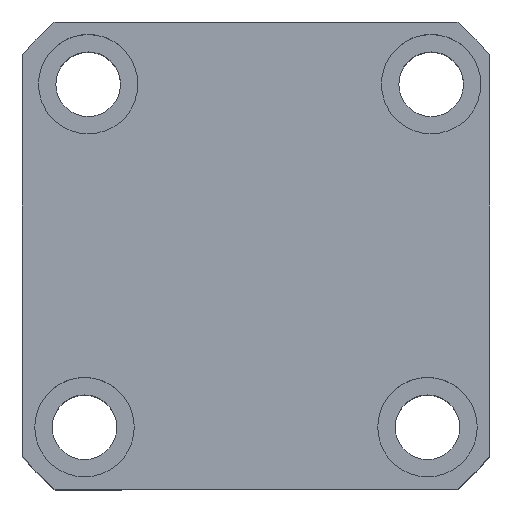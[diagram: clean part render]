
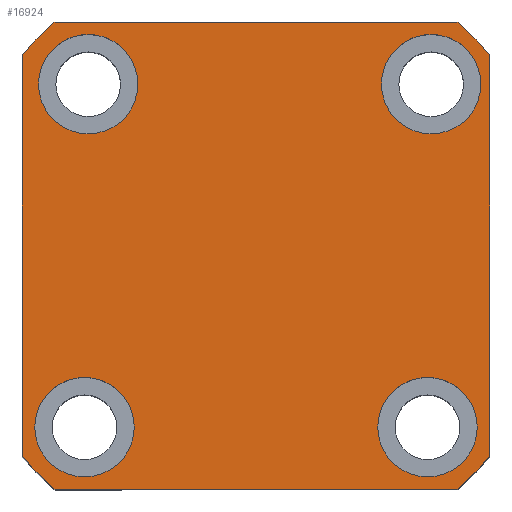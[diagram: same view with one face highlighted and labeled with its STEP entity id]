
A CAD part, top view. The second image highlights one B-rep face of the part: STEP entity #16924.
In plain terms, the highlighted planar face has unit normal (0, 0, 1) as drawn and (0, 0, -1) by its records, which use the part's own axes.
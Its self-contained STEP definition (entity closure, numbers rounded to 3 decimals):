
#248 = AXIS2_PLACEMENT_3D ( 'NONE', #7564, #17146, #8928 ) ;
#677 = DIRECTION ( 'NONE',  ( 0., 0., 1. ) ) ;
#994 = CARTESIAN_POINT ( 'NONE',  ( 47., 47., 0. ) ) ;
#1091 = EDGE_LOOP ( 'NONE', ( #17523, #15506 ) ) ;
#1094 = DIRECTION ( 'NONE',  ( 1., 0., 0. ) ) ;
#1207 = AXIS2_PLACEMENT_3D ( 'NONE', #6913, #16488, #8295 ) ;
#1556 = CIRCLE ( 'NONE', #2123, 62. ) ;
#2004 = FACE_BOUND ( 'NONE', #8849, .T. ) ;
#2029 = VERTEX_POINT ( 'NONE', #2977 ) ;
#2091 = VECTOR ( 'NONE', #7868, 1000. ) ;
#2123 = AXIS2_PLACEMENT_3D ( 'NONE', #11795, #3599, #13185 ) ;
#2503 = AXIS2_PLACEMENT_3D ( 'NONE', #17571, #9331, #1094 ) ;
#2800 = VERTEX_POINT ( 'NONE', #3671 ) ;
#2809 = DIRECTION ( 'NONE',  ( 0., 0., -1. ) ) ;
#2834 = CARTESIAN_POINT ( 'NONE',  ( 47., 40.435, 0. ) ) ;
#2934 = VERTEX_POINT ( 'NONE', #12775 ) ;
#2977 = CARTESIAN_POINT ( 'NONE',  ( -40.435, 47., 0. ) ) ;
#3022 = VERTEX_POINT ( 'NONE', #12240 ) ;
#3043 = AXIS2_PLACEMENT_3D ( 'NONE', #3424, #677, #10291 ) ;
#3149 = CARTESIAN_POINT ( 'NONE',  ( -47., -40.435, 0. ) ) ;
#3220 = VECTOR ( 'NONE', #17304, 1000. ) ;
#3287 = ORIENTED_EDGE ( 'NONE', *, *, #16895, .F. ) ;
#3337 = VERTEX_POINT ( 'NONE', #16345 ) ;
#3424 = CARTESIAN_POINT ( 'NONE',  ( 0., 0., 0. ) ) ;
#3599 = DIRECTION ( 'NONE',  ( 0., 0., 1. ) ) ;
#3671 = CARTESIAN_POINT ( 'NONE',  ( -44.5, 34.5, 0. ) ) ;
#3689 = EDGE_CURVE ( 'NONE', #12540, #2934, #15043, .T. ) ;
#3692 = ORIENTED_EDGE ( 'NONE', *, *, #5277, .F. ) ;
#3726 = CARTESIAN_POINT ( 'NONE',  ( -47., 47., 0. ) ) ;
#4298 = VERTEX_POINT ( 'NONE', #4375 ) ;
#4375 = CARTESIAN_POINT ( 'NONE',  ( 40.435, -47., 0. ) ) ;
#4724 = EDGE_LOOP ( 'NONE', ( #17048, #8058 ) ) ;
#4756 = VERTEX_POINT ( 'NONE', #10464 ) ;
#4764 = VERTEX_POINT ( 'NONE', #11844 ) ;
#4792 = DIRECTION ( 'NONE',  ( 0., 0., -1. ) ) ;
#4882 = CARTESIAN_POINT ( 'NONE',  ( -34.5, 34.5, 0. ) ) ;
#5268 = DIRECTION ( 'NONE',  ( 0., 0., 1. ) ) ;
#5275 = VERTEX_POINT ( 'NONE', #13157 ) ;
#5277 = EDGE_CURVE ( 'NONE', #3337, #2029, #6861, .T. ) ;
#5337 = VERTEX_POINT ( 'NONE', #6434 ) ;
#5418 = DIRECTION ( 'NONE',  ( 0., 0., -1. ) ) ;
#5602 = ORIENTED_EDGE ( 'NONE', *, *, #9582, .F. ) ;
#5660 = FACE_BOUND ( 'NONE', #16929, .T. ) ;
#5688 = CIRCLE ( 'NONE', #9149, 10. ) ;
#5747 = LINE ( 'NONE', #3726, #2091 ) ;
#6071 = CARTESIAN_POINT ( 'NONE',  ( -34.5, 34.5, 0. ) ) ;
#6114 = EDGE_CURVE ( 'NONE', #2800, #5337, #6200, .T. ) ;
#6173 = PLANE ( 'NONE',  #3043 ) ;
#6200 = CIRCLE ( 'NONE', #17773, 10. ) ;
#6250 = CARTESIAN_POINT ( 'NONE',  ( 34.5, 34.5, 0. ) ) ;
#6261 = DIRECTION ( 'NONE',  ( -1., 0., 0. ) ) ;
#6264 = ORIENTED_EDGE ( 'NONE', *, *, #6407, .F. ) ;
#6282 = AXIS2_PLACEMENT_3D ( 'NONE', #13480, #5268, #14860 ) ;
#6407 = EDGE_CURVE ( 'NONE', #2934, #12540, #15422, .T. ) ;
#6434 = CARTESIAN_POINT ( 'NONE',  ( -24.5, 34.5, 0. ) ) ;
#6625 = AXIS2_PLACEMENT_3D ( 'NONE', #6071, #15657, #7463 ) ;
#6820 = CIRCLE ( 'NONE', #6282, 62. ) ;
#6861 = LINE ( 'NONE', #15905, #3220 ) ;
#6913 = CARTESIAN_POINT ( 'NONE',  ( 0., 0., 0. ) ) ;
#6980 = ORIENTED_EDGE ( 'NONE', *, *, #15562, .F. ) ;
#7463 = DIRECTION ( 'NONE',  ( -1., 0., 0. ) ) ;
#7564 = CARTESIAN_POINT ( 'NONE',  ( -33.77, -34.5, 0. ) ) ;
#7646 = DIRECTION ( 'NONE',  ( -1., 0., 0. ) ) ;
#7700 = VERTEX_POINT ( 'NONE', #8692 ) ;
#7746 = DIRECTION ( 'NONE',  ( 0., 0., -1. ) ) ;
#7772 = EDGE_CURVE ( 'NONE', #5337, #2800, #13485, .T. ) ;
#7850 = ORIENTED_EDGE ( 'NONE', *, *, #9667, .F. ) ;
#7868 = DIRECTION ( 'NONE',  ( 0., -1., 0. ) ) ;
#8055 = CARTESIAN_POINT ( 'NONE',  ( -43.77, -34.5, 0. ) ) ;
#8058 = ORIENTED_EDGE ( 'NONE', *, *, #16884, .F. ) ;
#8295 = DIRECTION ( 'NONE',  ( 1., 0., 0. ) ) ;
#8372 = EDGE_LOOP ( 'NONE', ( #11147, #7850, #11649, #17760, #15244, #5602, #16762, #3692 ) ) ;
#8501 = EDGE_CURVE ( 'NONE', #4298, #4756, #6820, .T. ) ;
#8692 = CARTESIAN_POINT ( 'NONE',  ( -47., 40.435, 0. ) ) ;
#8734 = CIRCLE ( 'NONE', #2503, 62. ) ;
#8849 = EDGE_LOOP ( 'NONE', ( #3287, #6980 ) ) ;
#8928 = DIRECTION ( 'NONE',  ( -1., 0., 0. ) ) ;
#9104 = VERTEX_POINT ( 'NONE', #3149 ) ;
#9127 = AXIS2_PLACEMENT_3D ( 'NONE', #13629, #5418, #15011 ) ;
#9149 = AXIS2_PLACEMENT_3D ( 'NONE', #15939, #7746, #17333 ) ;
#9278 = FACE_BOUND ( 'NONE', #1091, .T. ) ;
#9331 = DIRECTION ( 'NONE',  ( 0., 0., 1. ) ) ;
#9499 = VECTOR ( 'NONE', #9554, 1000. ) ;
#9554 = DIRECTION ( 'NONE',  ( 1., 0., 0. ) ) ;
#9582 = EDGE_CURVE ( 'NONE', #7700, #9104, #5747, .T. ) ;
#9667 = EDGE_CURVE ( 'NONE', #4756, #16423, #16237, .T. ) ;
#9772 = ORIENTED_EDGE ( 'NONE', *, *, #3689, .F. ) ;
#9925 = LINE ( 'NONE', #13659, #9499 ) ;
#10291 = DIRECTION ( 'NONE',  ( 1., 0., 0. ) ) ;
#10464 = CARTESIAN_POINT ( 'NONE',  ( 47., -40.435, 0. ) ) ;
#10598 = DIRECTION ( 'NONE',  ( 0., 1., 0. ) ) ;
#10639 = EDGE_CURVE ( 'NONE', #16423, #3337, #8734, .T. ) ;
#10993 = CARTESIAN_POINT ( 'NONE',  ( -33.77, -34.5, 0. ) ) ;
#11147 = ORIENTED_EDGE ( 'NONE', *, *, #10639, .F. ) ;
#11620 = VERTEX_POINT ( 'NONE', #8055 ) ;
#11649 = ORIENTED_EDGE ( 'NONE', *, *, #8501, .F. ) ;
#11795 = CARTESIAN_POINT ( 'NONE',  ( 0., 0., 0. ) ) ;
#11809 = EDGE_CURVE ( 'NONE', #9104, #4764, #13635, .T. ) ;
#11844 = CARTESIAN_POINT ( 'NONE',  ( -40.435, -47., 0. ) ) ;
#12240 = CARTESIAN_POINT ( 'NONE',  ( 25.23, -34.5, 0. ) ) ;
#12390 = DIRECTION ( 'NONE',  ( -1., 0., 0. ) ) ;
#12540 = VERTEX_POINT ( 'NONE', #14536 ) ;
#12546 = EDGE_CURVE ( 'NONE', #3022, #5275, #5688, .T. ) ;
#12603 = VECTOR ( 'NONE', #10598, 1000. ) ;
#12736 = CIRCLE ( 'NONE', #15670, 10. ) ;
#12775 = CARTESIAN_POINT ( 'NONE',  ( 24.5, 34.5, 0. ) ) ;
#12942 = CIRCLE ( 'NONE', #248, 10. ) ;
#13014 = CARTESIAN_POINT ( 'NONE',  ( 35.23, -34.5, 0. ) ) ;
#13157 = CARTESIAN_POINT ( 'NONE',  ( 45.23, -34.5, 0. ) ) ;
#13185 = DIRECTION ( 'NONE',  ( 1., 0., 0. ) ) ;
#13371 = FACE_BOUND ( 'NONE', #4724, .T. ) ;
#13404 = VERTEX_POINT ( 'NONE', #15748 ) ;
#13480 = CARTESIAN_POINT ( 'NONE',  ( 0., 0., 0. ) ) ;
#13485 = CIRCLE ( 'NONE', #6625, 10. ) ;
#13618 = AXIS2_PLACEMENT_3D ( 'NONE', #6250, #15843, #7646 ) ;
#13629 = CARTESIAN_POINT ( 'NONE',  ( 34.5, 34.5, 0. ) ) ;
#13635 = CIRCLE ( 'NONE', #1207, 62. ) ;
#13659 = CARTESIAN_POINT ( 'NONE',  ( -47., -47., 0. ) ) ;
#14407 = DIRECTION ( 'NONE',  ( -1., 0., 0. ) ) ;
#14492 = DIRECTION ( 'NONE',  ( 0., 0., -1. ) ) ;
#14536 = CARTESIAN_POINT ( 'NONE',  ( 44.5, 34.5, 0. ) ) ;
#14860 = DIRECTION ( 'NONE',  ( 1., 0., 0. ) ) ;
#15011 = DIRECTION ( 'NONE',  ( -1., 0., 0. ) ) ;
#15043 = CIRCLE ( 'NONE', #13618, 10. ) ;
#15244 = ORIENTED_EDGE ( 'NONE', *, *, #11809, .F. ) ;
#15414 = EDGE_CURVE ( 'NONE', #4764, #4298, #9925, .T. ) ;
#15422 = CIRCLE ( 'NONE', #9127, 10. ) ;
#15506 = ORIENTED_EDGE ( 'NONE', *, *, #7772, .F. ) ;
#15562 = EDGE_CURVE ( 'NONE', #13404, #11620, #12736, .T. ) ;
#15657 = DIRECTION ( 'NONE',  ( 0., 0., -1. ) ) ;
#15670 = AXIS2_PLACEMENT_3D ( 'NONE', #10993, #2809, #12390 ) ;
#15748 = CARTESIAN_POINT ( 'NONE',  ( -23.77, -34.5, 0. ) ) ;
#15843 = DIRECTION ( 'NONE',  ( 0., 0., -1. ) ) ;
#15905 = CARTESIAN_POINT ( 'NONE',  ( -47., 47., 0. ) ) ;
#15939 = CARTESIAN_POINT ( 'NONE',  ( 35.23, -34.5, 0. ) ) ;
#16150 = FACE_OUTER_BOUND ( 'NONE', #8372, .T. ) ;
#16237 = LINE ( 'NONE', #994, #12603 ) ;
#16345 = CARTESIAN_POINT ( 'NONE',  ( 40.435, 47., 0. ) ) ;
#16423 = VERTEX_POINT ( 'NONE', #2834 ) ;
#16488 = DIRECTION ( 'NONE',  ( 0., 0., 1. ) ) ;
#16580 = CIRCLE ( 'NONE', #17170, 10. ) ;
#16762 = ORIENTED_EDGE ( 'NONE', *, *, #16987, .F. ) ;
#16884 = EDGE_CURVE ( 'NONE', #5275, #3022, #16580, .T. ) ;
#16895 = EDGE_CURVE ( 'NONE', #11620, #13404, #12942, .T. ) ;
#16924 = ADVANCED_FACE ( 'NONE', ( #13371, #2004, #9278, #5660, #16150 ), #6173, .F. ) ;
#16929 = EDGE_LOOP ( 'NONE', ( #6264, #9772 ) ) ;
#16987 = EDGE_CURVE ( 'NONE', #2029, #7700, #1556, .T. ) ;
#17048 = ORIENTED_EDGE ( 'NONE', *, *, #12546, .F. ) ;
#17146 = DIRECTION ( 'NONE',  ( 0., 0., -1. ) ) ;
#17170 = AXIS2_PLACEMENT_3D ( 'NONE', #13014, #4792, #14407 ) ;
#17304 = DIRECTION ( 'NONE',  ( -1., 0., 0. ) ) ;
#17333 = DIRECTION ( 'NONE',  ( -1., 0., 0. ) ) ;
#17523 = ORIENTED_EDGE ( 'NONE', *, *, #6114, .F. ) ;
#17571 = CARTESIAN_POINT ( 'NONE',  ( 0., 0., 0. ) ) ;
#17760 = ORIENTED_EDGE ( 'NONE', *, *, #15414, .F. ) ;
#17773 = AXIS2_PLACEMENT_3D ( 'NONE', #4882, #14492, #6261 ) ;
